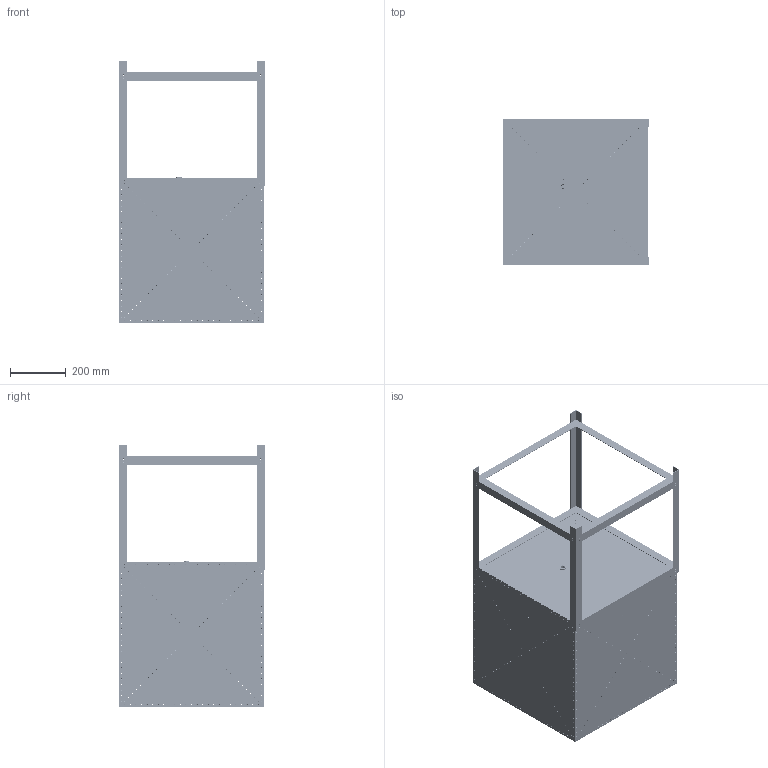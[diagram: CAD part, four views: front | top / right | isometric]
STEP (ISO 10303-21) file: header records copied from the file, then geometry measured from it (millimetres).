
FILE_DESCRIPTION (( 'STEP AP214' ), '1' );
FILE_NAME ('assieme definitivo_4.STEP', '2016-02-29T11:09:33', ( '' ), ( '' ), 'SwSTEP 2.0', 'SolidWorks 2012', '' );
FILE_SCHEMA (( 'AUTOMOTIVE_DESIGN' ));
Length unit declared in the file: millimetre
Products named in the file (154): SC61; SC70; SC8; vite M2 x 4; SC11; SC79; SC127; assieme base appoggio; Lato; SC63; Assieme scatola esterna_3; SC12; SC134; SC36; SC67; SC65; SC152; SC40_2; SC44; SC64; Assieme new distanziali lunghi; SC80; vite alluminio M3; SC152_sud; ASSIEME scatola grande_2; vite M2 x 8; SC42; SC9; SC10_2; Assieme SC134sud e flange; SC129; SC5; SC54; Assieme COPERCHIO; SC 152; SC130; ASSIEME scatola media; SC62; SC134down; SC35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
Assembly tree (412 placements, depth 7):
  assieme  definitivo_4
    Assiemecuore_guida
      AssiemeRocchetto_2
        G_7_2SLDPRT
        G_6_UPSLDPRT
        G_6SLDPRT
        G_5  x4
        G_4
        G12
        G_3
      assieme guida
        assieme cella  x5
          G11
          G_2_pla
          G_2
        G_1  x7
        assieme cella_uscita
          G11  x4
          G_2_pla
        vite M1 x 5  x4
      G10  x4
      G9  x2
      G8
      vite M1 x 5  x3
      G_2_prima
      _Assieme nanotc riduzione
        Assieme gruppo Nord
          C1_1
          C2
          C1_2_N
          ass NORD dis_mot vert
            C8
            C9
            C10
            alberino D-N-S
          instrument ball bearing_68_am_AFBMA 12.1.4.1 - 0020-6 - 8,SI,NC,8_68  x2
          Assieme platina NordSud
            spur gear_iso_ISO - Spur gear 0.3M 75T 20PA 2.5FW ---S75A75H50L4.0N
            radial ball bearing_68_skf_SKF - 623 - 8,SI,NC,8_68  x2
            spur gear_iso_ISO - Spur gear 0.3M 25T 20PA 2.5FW ---S25A75H50L3.0N
            pernetto centrale
            motore step STF2818X0504
              Endplatte_STF2818X0504
              ISO 7046-1 Z M1,6 x 8 - 4.8 - Z  x4
              Stator_STF2818X0504
              Welle_STF2818X0504
              Frontplatte_STF2818X0504
            platina riduttore_3
            pernetto rinvio
            spur gear_iso_ISO - Spur gear 0.3M 20T 20PA 2.5FW ---S20A75H50L2.0N
            spur gear_iso_ISO - Spur gear 0.3M 100T 20PA 2.5FW ---S100A75H50L4.0N
            instrument ball bearing_68_am_AFBMA 12.1.4.1 - 0020-6 - 8,SI,NC,8_68
          Assieme mot Pamoco e flangia
            flngia pamoco
            motore pamoco serie28
          dist_NORD_1  x2
          dist_NORD_2  x2
          raccordo motore trascinato
          vite M2,5 x 6 brug  x2
          spina d3x15
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Bounding box: 526 x 526 x 942 mm (x, y, z)
Volume: 8601875.7 mm3; surface area: 8600378.5 mm2
Topology: 485 solids, 485 shells, 34127 faces, 91276 edges, 58831 vertices
Faces by surface type: cylinder 17141, cone 7421, plane 6821, bspline 2406, torus 306, sphere 32
Entity records: 415731 total; most frequent: CARTESIAN_POINT 129474, DIRECTION 59614, ORIENTED_EDGE 56182, EDGE_CURVE 28091, AXIS2_PLACEMENT_3D 23316, VERTEX_POINT 18028, EDGE_LOOP 14643, CIRCLE 13095
